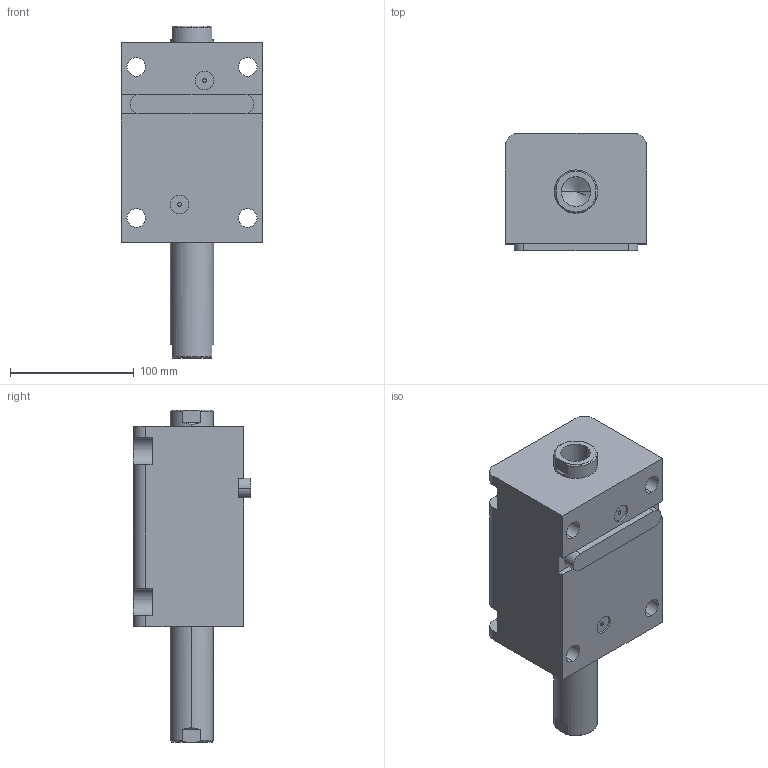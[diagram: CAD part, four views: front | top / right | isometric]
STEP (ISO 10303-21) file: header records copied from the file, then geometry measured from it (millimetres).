
FILE_DESCRIPTION (( 'STEP AP203' ), '1' );
FILE_NAME ('HTB-LWM63-80N.STEP', '2020-12-25T03:53:12', ( '微软用户' ), ( '微软中国' ), 'SwSTEP 2.0', 'SolidWorks 2012', '' );
FILE_SCHEMA (( 'CONFIG_CONTROL_DESIGN' ));
Length unit declared in the file: millimetre
Products named in the file (4): HTB-LWM63-80掛极; HTB-LWM63-80N活塞杆; HTB-LWM63-瑩; HTB-LWM63-80N
Assembly tree (3 placements, depth 2):
  HTB-LWM63-80N
    HTB-LWM63-80掛极
    HTB-LWM63-80N活塞杆
    HTB-LWM63-瑩
Bounding box: 114 x 94.5 x 268 mm (x, y, z)
Volume: 1458712.2 mm3; surface area: 177793.8 mm2
Topology: 3 solids, 3 shells, 105 faces, 261 edges, 168 vertices
Faces by surface type: cylinder 45, plane 44, torus 8, cone 8
Entity records: 3571 total; most frequent: CARTESIAN_POINT 592, DIRECTION 573, ORIENTED_EDGE 514, EDGE_CURVE 257, AXIS2_PLACEMENT_3D 221, VERTEX_POINT 168, LINE 131, VECTOR 131
